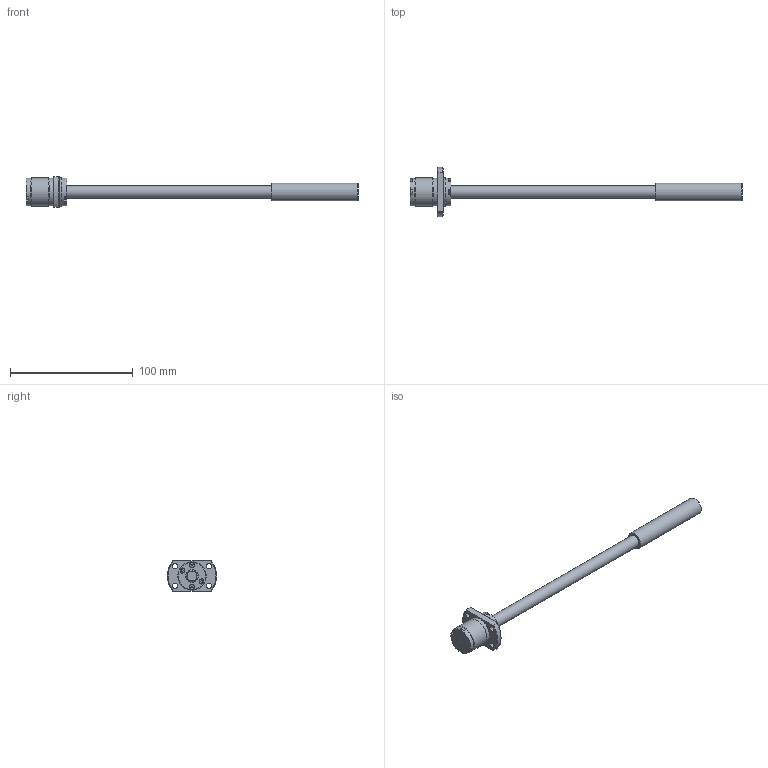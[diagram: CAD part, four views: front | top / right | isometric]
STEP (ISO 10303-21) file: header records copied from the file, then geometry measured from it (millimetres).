
FILE_DESCRIPTION( ( 'STEP AP203' ), '1' );
FILE_NAME( 'e:/temp/worker_96/temp/exporttempdir_4460_475_cwbPR/format_0/SRT1015-196R270C10A0X(0None).stp', '2021-10-19T05:51:48', ( 'License CC BY-ND 4.0' ), ( 'CADENAS' ), ' ', 'PARTsolutions', ' ' );
FILE_SCHEMA( ( 'CONFIG_CONTROL_DESIGN' ) );
Length unit declared in the file: millimetre
Products named in the file (3): SRT1015-196R270C10A0X(0None); _SRT1015-196R270ACt10NoneShaft; _SRT1015Nut
Assembly tree (2 placements, depth 2):
  SRT1015-196R270C10A0X(0None)
    _SRT1015-196R270ACt10NoneShaft
    _SRT1015Nut
Bounding box: 270 x 40 x 25 mm (x, y, z)
Volume: 39791.2 mm3; surface area: 15440.2 mm2
Topology: 2 solids, 2 shells, 138 faces, 333 edges, 220 vertices
Faces by surface type: plane 99, cylinder 30, cone 9
Full cylindrical faces by diameter (mm): 3.8 x8, 4.5 x4, 10 x2, 14.2 x1, 22.45 x1, 22.5 x2, 23 x2
Entity records: 4004 total; most frequent: CARTESIAN_POINT 689, DIRECTION 662, ORIENTED_EDGE 612, EDGE_CURVE 306, AXIS2_PLACEMENT_3D 223, VERTEX_POINT 218, LINE 216, VECTOR 216
